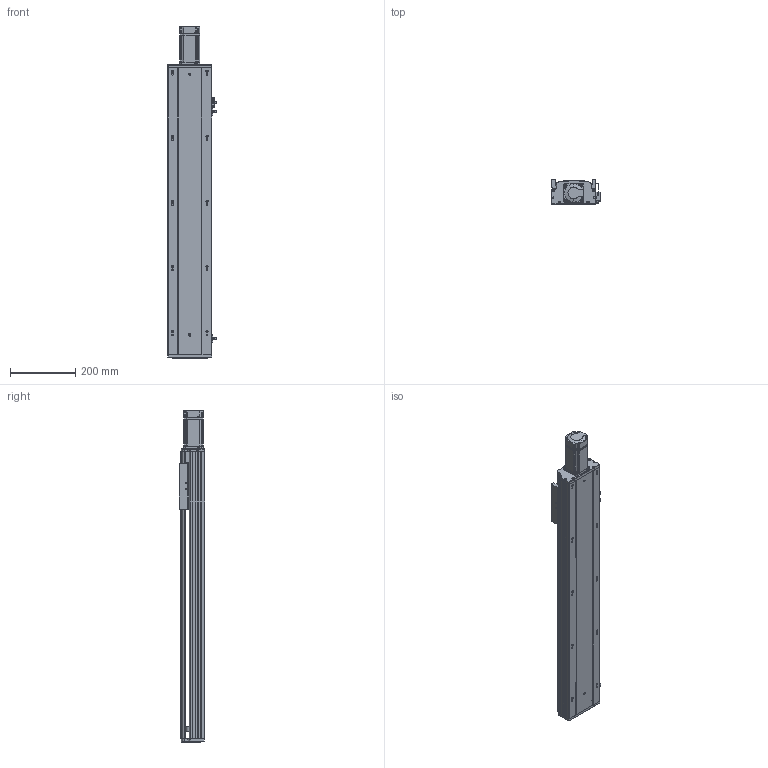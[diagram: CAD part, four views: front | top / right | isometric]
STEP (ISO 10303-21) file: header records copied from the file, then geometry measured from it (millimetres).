
FILE_DESCRIPTION (( 'STEP AP203' ), '1' );
FILE_NAME ('RY140Q-L2010-700-MK.SLDASM_0650.step', '2021-05-27T03:22:08', ( '盈信电脑' ), ( '东莞市道滘镇水果街19号' ), 'SwSTEP 2.0', 'SolidWorks 2016', '' );
FILE_SCHEMA (( 'CONFIG_CONTROL_DESIGN' ));
Length unit declared in the file: millimetre
Products named in the file (14): RY140Q-700-MK倰第奻裔啣_0650; RY120外置感应片(140共用）; 侂狟400W侜督萇儂; RY140綴裔啣; 15; 滅袉蝶18-10; RY140Q萇儂傷盓傅釱FK12(80.5酗M5); RY140ヶ裔啣; 覜茼ん672; RY140Q-700-MK倰第菁釱_0650; RY140Q-L2010-700-MK.SLDASM_0650; 鞠褒坶踡蹟譫BK12 ; RY140Q臏賑輸(20佪裝-J); 滅袉蝶18-15
Assembly tree (16 placements, depth 3):
  RY140Q-L2010-700-MK.SLDASM_0650
    RY140Q-700-MK倰第菁釱_0650
    RY140Q臏賑輸(20佪裝-J)
    RY140Q-700-MK倰第奻裔啣_0650
    RY140ヶ裔啣
    侂狟400W侜督萇儂
      15
    鞠褒坶踡蹟譫BK12 
    RY140綴裔啣
    覜茼ん672  x3
    RY120外置感应片(140共用）
    RY140Q萇儂傷盓傅釱FK12(80.5酗M5)
    滅袉蝶18-10
    滅袉蝶18-15  x2
Bounding box: 148.7 x 78 x 1019.5 mm (x, y, z)
Volume: 3007133.9 mm3; surface area: 1064515.9 mm2
Topology: 15 solids, 15 shells, 2065 faces, 5684 edges, 3641 vertices
Faces by surface type: plane 1082, cylinder 706, cone 192, bspline 85
Entity records: 68115 total; most frequent: CARTESIAN_POINT 16322, ORIENTED_EDGE 10676, DIRECTION 10156, EDGE_CURVE 5338, VERTEX_POINT 3501, VECTOR 3460, LINE 3460, AXIS2_PLACEMENT_3D 3348
